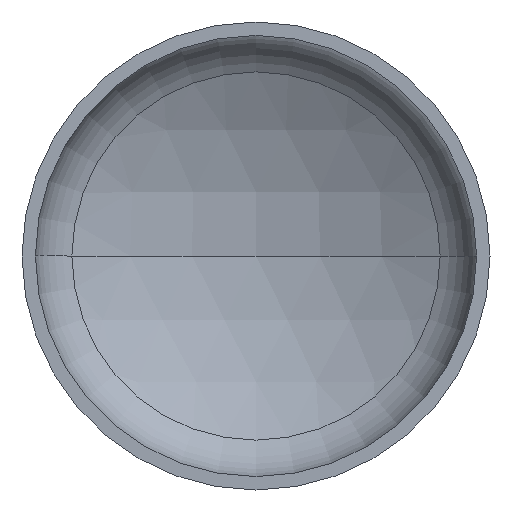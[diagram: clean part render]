
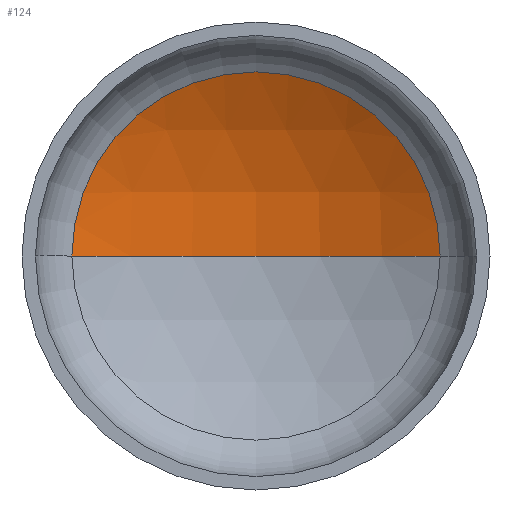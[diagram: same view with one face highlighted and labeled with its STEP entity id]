
A CAD part, front view. The second image highlights one B-rep face of the part: STEP entity #124.
In plain terms, the highlighted spherical face has radius 1280 mm.
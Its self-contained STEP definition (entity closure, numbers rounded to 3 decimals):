
#12 = DIRECTION ( 'NONE',  ( 0., 0., -1. ) ) ;
#15 = VERTEX_POINT ( 'NONE', #363 ) ;
#24 = AXIS2_PLACEMENT_3D ( 'NONE', #395, #12, #174 ) ;
#29 = AXIS2_PLACEMENT_3D ( 'NONE', #280, #93, #275 ) ;
#32 = AXIS2_PLACEMENT_3D ( 'NONE', #194, #176, #177 ) ;
#34 = AXIS2_PLACEMENT_3D ( 'NONE', #212, #206, #209 ) ;
#71 = EDGE_CURVE ( 'NONE', #15, #78, #394, .T. ) ;
#73 = EDGE_CURVE ( 'NONE', #110, #15, #334, .T. ) ;
#74 = EDGE_CURVE ( 'NONE', #110, #78, #208, .T. ) ;
#78 = VERTEX_POINT ( 'NONE', #199 ) ;
#93 = DIRECTION ( 'NONE',  ( 0., 0., 1. ) ) ;
#96 = ORIENTED_EDGE ( 'NONE', *, *, #73, .T. ) ;
#110 = VERTEX_POINT ( 'NONE', #240 ) ;
#124 = ADVANCED_FACE ( 'NONE', ( #385 ), #268, .F. ) ;
#138 = ORIENTED_EDGE ( 'NONE', *, *, #74, .F. ) ;
#169 = ORIENTED_EDGE ( 'NONE', *, *, #71, .T. ) ;
#174 = DIRECTION ( 'NONE',  ( -1., 0., 0. ) ) ;
#176 = DIRECTION ( 'NONE',  ( 0., 0., -1. ) ) ;
#177 = DIRECTION ( 'NONE',  ( -1., 0., 0. ) ) ;
#194 = CARTESIAN_POINT ( 'NONE',  ( 0., -761.19, 0. ) ) ;
#199 = CARTESIAN_POINT ( 'NONE',  ( -629.488, 353.325, 0. ) ) ;
#206 = DIRECTION ( 'NONE',  ( 0., -1., 0. ) ) ;
#208 = CIRCLE ( 'NONE', #29, 1280. ) ;
#209 = DIRECTION ( 'NONE',  ( 1., 0., 0. ) ) ;
#212 = CARTESIAN_POINT ( 'NONE',  ( 0., 353.325, 0. ) ) ;
#240 = CARTESIAN_POINT ( 'NONE',  ( 0., 518.81, 0. ) ) ;
#243 = EDGE_LOOP ( 'NONE', ( #138, #96, #169 ) ) ;
#268 = SPHERICAL_SURFACE ( 'NONE', #24, 1280. ) ;
#275 = DIRECTION ( 'NONE',  ( 1., 0., 0. ) ) ;
#280 = CARTESIAN_POINT ( 'NONE',  ( 0., -761.19, 0. ) ) ;
#334 = CIRCLE ( 'NONE', #32, 1280. ) ;
#363 = CARTESIAN_POINT ( 'NONE',  ( 629.488, 353.325, 0. ) ) ;
#385 = FACE_OUTER_BOUND ( 'NONE', #243, .T. ) ;
#394 = CIRCLE ( 'NONE', #34, 629.488 ) ;
#395 = CARTESIAN_POINT ( 'NONE',  ( 0., -761.19, 0. ) ) ;
